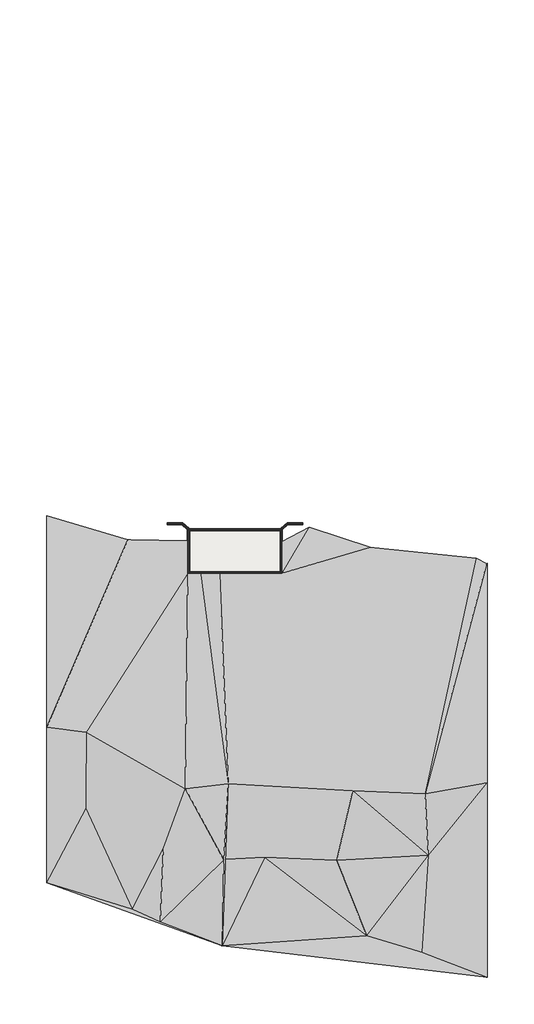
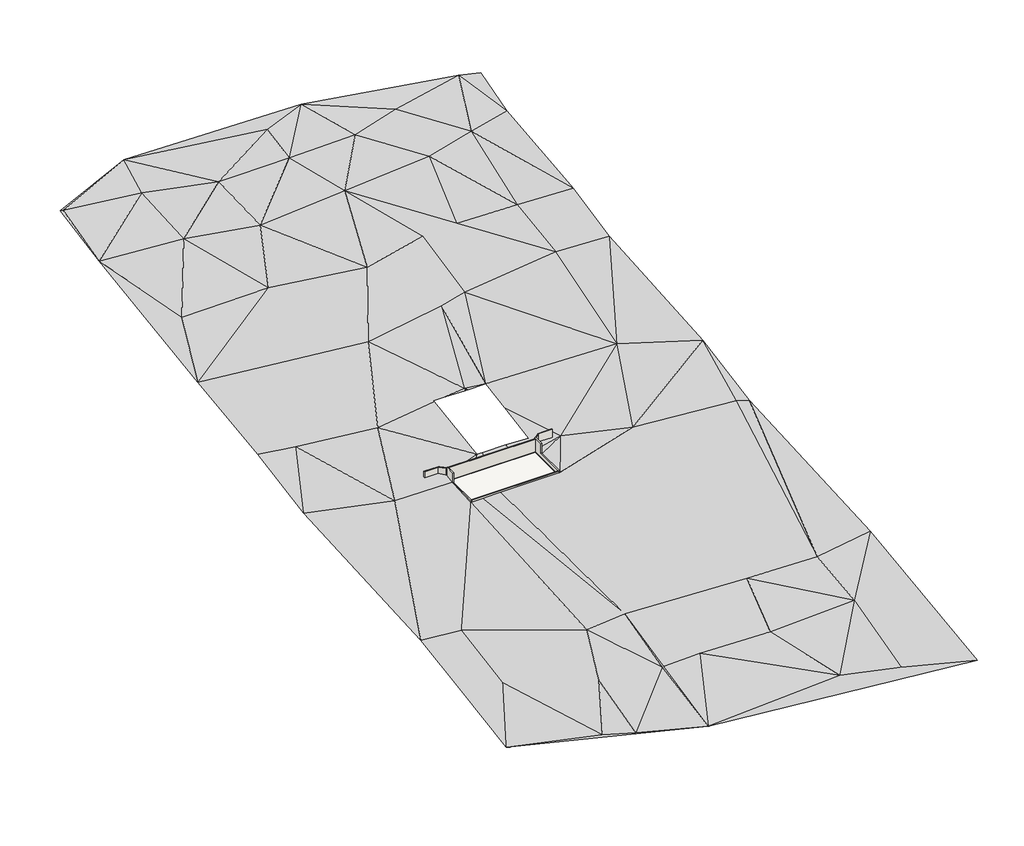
# One storey, incomplete: 17 walls, 1 proxy, 1 slab.
"""IFC4 building model written with IfcOpenShell, lengths in millimetres."""

import ifcopenshell
import ifcopenshell.guid

model = None  # the IFC model being written
_history = None  # IfcOwnerHistory: only IFC2X3 demands one
_inside = {}  # id of a spatial element -> (the spatial element, [elements in it])
_under = {}  # id of a project, library or spatial element -> (it, [spatial elements below it])
_declared = {}  # id of a project -> (the project, [libraries it declares])
_typed = {}  # id of a type object -> (the type object, [elements of that type])
_made_of = {}  # id of a material, layer set ... -> (it, [elements and type objects made of it])


def new_model(schema):
    """Start an empty IFC model of exactly this schema.

    Asked for "IFC4X3", IfcOpenShell would pick the latest addendum, in which some entities
    have other attributes; the version numbers below select the first issue.
    IFC2X3 requires an IfcOwnerHistory on every rooted entity: one is made here for all.
    """
    global model, _history
    if schema == "IFC4X3":
        model = ifcopenshell.file(schema_version=(4, 3, 0, 0))
    else:
        model = ifcopenshell.file(schema=schema)
    _inside.clear()
    _under.clear()
    _declared.clear()
    _typed.clear()
    _made_of.clear()
    _history = None
    if model.schema == "IFC2X3":
        org = make("IfcOrganization", Name="unknown")
        user = make(
            "IfcPersonAndOrganization",
            ThePerson=make("IfcPerson", FamilyName="unknown"),
            TheOrganization=org,
        )
        app = make(
            "IfcApplication",
            ApplicationDeveloper=org,
            Version="unknown",
            ApplicationFullName="unknown",
            ApplicationIdentifier="unknown",
        )
        _history = make(
            "IfcOwnerHistory",
            OwningUser=user,
            OwningApplication=app,
            ChangeAction="ADDED",
            CreationDate=0,
        )
    return model


def make(cls, **values):
    """One entity of the class cls with the attributes given. An attribute that is None is left unset."""
    return model.create_entity(
        cls, **{name: value for name, value in values.items() if value is not None}
    )


def rooted(cls, **values):
    """An entity with a GlobalId (a new one), such as an element, a storey or a relation."""
    return make(cls, GlobalId=ifcopenshell.guid.new(), OwnerHistory=_history, **values)


def si_unit(unit_type, name, prefix=None):
    """IfcSIUnit, for example si_unit("LENGTHUNIT", "METRE", prefix="MILLI")."""
    return make("IfcSIUnit", UnitType=unit_type, Prefix=prefix, Name=name)


def assignment(units):
    """IfcUnitAssignment: the units of a project."""
    return None if units is None else make("IfcUnitAssignment", Units=units)


def point(xyz):
    """IfcCartesianPoint."""
    return None if xyz is None else make("IfcCartesianPoint", Coordinates=xyz)


def direction(xyz):
    """IfcDirection."""
    return None if xyz is None else make("IfcDirection", DirectionRatios=xyz)


def frame(location, z_axis=None, x_axis=None):
    """IfcAxis2Placement3D, a coordinate frame: its origin and axes. An axis left out is left unset."""
    return make(
        "IfcAxis2Placement3D",
        Location=point(location),
        Axis=direction(z_axis),
        RefDirection=direction(x_axis),
    )


def origin():
    """The frame at (0, 0, 0) with its axes left unset."""
    return frame((0.0, 0.0, 0.0))


def place(relative_to, where):
    """IfcLocalPlacement: puts the frame where relative to a parent placement (None: the world)."""
    return make(
        "IfcLocalPlacement", PlacementRelTo=relative_to, RelativePlacement=where
    )


def context(
    kind, dimensions, precision=None, world=None, true_north=None, identifier=None
):
    """IfcGeometricRepresentationContext, for example the 3D "Model" context."""
    return make(
        "IfcGeometricRepresentationContext",
        ContextIdentifier=identifier,
        ContextType=kind,
        CoordinateSpaceDimension=dimensions,
        Precision=precision,
        WorldCoordinateSystem=world,
        TrueNorth=true_north,
    )


def project(units=None, contexts=None):
    """IfcProject with its units and contexts."""
    return rooted(
        "IfcProject",
        Name="project",
        RepresentationContexts=contexts,
        UnitsInContext=assignment(units),
    )


def spatial(cls, under=None, at=None, **own):
    """A site, building, storey or space (cls), placed at a placement, below another one or the project."""
    s = rooted(cls, ObjectPlacement=at, **own)
    if under is not None:
        _under.setdefault(under.id(), (under, []))[1].append(s)
    return s


def polyline(points):
    """IfcPolyline through the points."""
    return make("IfcPolyline", Points=[point(p) for p in points])


def point_list(points):
    """IfcCartesianPointList2D or 3D."""
    cls = (
        "IfcCartesianPointList2D" if len(points[0]) == 2 else "IfcCartesianPointList3D"
    )
    return make(cls, CoordList=points)


def outline(outer, holes=None, kind="AREA"):
    """IfcArbitraryClosedProfileDef: a profile drawn as a closed curve; with holes, ...WithVoids."""
    if holes is None:
        return make("IfcArbitraryClosedProfileDef", ProfileType=kind, OuterCurve=outer)
    return make(
        "IfcArbitraryProfileDefWithVoids",
        ProfileType=kind,
        OuterCurve=outer,
        InnerCurves=holes,
    )


def extrude(swept, where, along, depth):
    """IfcExtrudedAreaSolid: the profile swept, set in the frame where, extruded along a direction by depth."""
    return make(
        "IfcExtrudedAreaSolid",
        SweptArea=swept,
        Position=where,
        ExtrudedDirection=direction(along),
        Depth=depth,
    )


def faces_of(points, faces, orient=None, outer=None):
    """IfcFace entities. A face is a list of loops; a loop is a list of indices into points, from 0.

    orient and outer hold one flag for each loop. By default every Orientation is true, the
    first loop of a face is its IfcFaceOuterBound and the others are IfcFaceBound.
    """
    made = []
    for i, loops in enumerate(faces):
        bounds = []
        for j, loop in enumerate(loops):
            is_outer = j == 0 if outer is None else outer[i][j]
            bounds.append(
                make(
                    "IfcFaceOuterBound" if is_outer else "IfcFaceBound",
                    Bound=make("IfcPolyLoop", Polygon=[points[k] for k in loop]),
                    Orientation=True if orient is None else orient[i][j],
                )
            )
        made.append(make("IfcFace", Bounds=bounds))
    return made


def faceted_brep(points, faces, orient=None, outer=None, voids=None):
    """IfcFacetedBrep: a solid bounded by flat faces; with voids (closed shells), ...WithVoids."""
    shared = [point(p) for p in points]
    hull = make("IfcClosedShell", CfsFaces=faces_of(shared, faces, orient, outer))
    if voids is None:
        return make("IfcFacetedBrep", Outer=hull)
    return make(
        "IfcFacetedBrepWithVoids",
        Outer=hull,
        Voids=[
            make(cls, CfsFaces=faces_of(shared, fs, o, b)) for cls, fs, o, b in voids
        ],
    )


def triangles(points, corners, closed=None, point_numbers=None):
    """IfcTriangulatedFaceSet: each triangle names its three corners, points numbered from 1."""
    return make(
        "IfcTriangulatedFaceSet",
        Coordinates=point_list(points),
        Closed=closed,
        CoordIndex=corners,
        PnIndex=point_numbers,
    )


def shape(context_of_items, identifier, shape_type, items):
    """IfcShapeRepresentation: the items that make up one representation, for example the "Body"."""
    return make(
        "IfcShapeRepresentation",
        ContextOfItems=context_of_items,
        RepresentationIdentifier=identifier,
        RepresentationType=shape_type,
        Items=items,
    )


def made_of(thing, what):
    """Note that an element or type object is made of a material, layer set ...; save() writes the relation."""
    if what is not None:
        _made_of.setdefault(what.id(), (what, []))[1].append(thing)
    return thing


def element(
    cls,
    number,
    at=None,
    inside=None,
    cuts=None,
    type_object=None,
    material=None,
    context=None,
    identifier="Body",
    shape_type=None,
    held_by="IfcProductDefinitionShape",
    body=None,
    shapes=None,
    **own,
):
    """One element of the class cls, such as IfcWall. Its Tag is "e" and its number.

    at: its placement. inside: the storey or other place that contains it. cuts: it is an
    opening in that element (IfcRelVoidsElement). A single representation is given by context,
    identifier, shape_type and body (its items); several are given by shapes. held_by: the class
    of the entity that holds the representations. save() writes the other relations.
    """
    e = rooted(cls, Tag="e%d" % number, ObjectPlacement=at, **own)
    if body is not None:
        shapes = [shape(context, identifier, shape_type, body)]
    if shapes is not None:
        e.Representation = make(held_by, Representations=shapes)
    if inside is not None:
        _inside.setdefault(inside.id(), (inside, []))[1].append(e)
    if cuts is not None:
        rooted(
            "IfcRelVoidsElement", RelatingBuildingElement=cuts, RelatedOpeningElement=e
        )
    if type_object is not None:
        _typed.setdefault(type_object.id(), (type_object, []))[1].append(e)
    return made_of(e, material)


def aggregate(whole, parts):
    """IfcRelAggregates: a whole, such as a stair, and the parts it consists of."""
    return rooted("IfcRelAggregates", RelatingObject=whole, RelatedObjects=parts)


def save(model, path):
    """Write the relations noted so far, then the file.

    IfcRelAggregates (storeys below a building ...), IfcRelContainedInSpatialStructure (elements
    in a storey), IfcRelDefinesByType, IfcRelAssociatesMaterial and IfcRelDeclares: one each for
    every whole, place, type object, material and project.
    """
    for whole, parts in _under.values():
        aggregate(whole, parts)
    for where, things in _inside.values():
        rooted(
            "IfcRelContainedInSpatialStructure",
            RelatedElements=things,
            RelatingStructure=where,
        )
    for kind, things in _typed.values():
        rooted("IfcRelDefinesByType", RelatedObjects=things, RelatingType=kind)
    for what, things in _made_of.values():
        rooted("IfcRelAssociatesMaterial", RelatedObjects=things, RelatingMaterial=what)
    for by, libraries in _declared.values():
        rooted("IfcRelDeclares", RelatingContext=by, RelatedDefinitions=libraries)
    model.write(path)


model = new_model("IFC4")

# Units and contexts
model_context = context("Model", 3, world=origin())
ifc_project = project(units=[si_unit("LENGTHUNIT", "METRE", prefix="MILLI")], contexts=[model_context])

# Site, building, storey
site = spatial("IfcSite", under=ifc_project)
building = spatial("IfcBuilding", under=site)
storey = spatial("IfcBuildingStorey", under=building, Name="T. O. Footing", Elevation=38404.8)

# Proxy
placement = place(None, origin())
element("IfcBuildingElementProxy", 1, Name="Building Element Proxy", at=placement, inside=storey, context=model_context, shape_type="Tessellation", body=[
    triangles([(-65566.3560425, 54771.6940063, 47548.8), (-65566.3560425, 23905.6129211, 43891.2), (-65566.3560425, 563.8212536, 39624.0), (-65566.3560425, -59376.9942993, 36271.2), (-65566.3560425, -80012.2417236, 32918.4), (-65566.3560425, -103024.7161377, 29260.8), (-16088.8167938, -120709.7389893, 29260.8), (58298.9810303, -129683.2563721, 29260.8), (58298.9810303, -100912.8171387, 32918.4), (58298.9810303, -74931.7843872, 36271.2), (58298.9810303, -12908.5062653, 39624.0), (58298.9810303, 10950.1955658, 43891.2), (58298.9810303, 58625.2866943, 47548.8), (58298.9810303, 77099.4381226, 51206.4), (58298.9810303, 111072.8853516, 54864.0), (58298.9810303, 124538.1192627, 58521.6), (53017.0522705, 126513.4126465, 58521.6), (8975.5277252, 130983.2886475, 62179.2), (-42778.1888672, 132098.7461426, 62179.2), (-65566.3560425, 125110.0843506, 58521.6), (-65566.3560425, 105131.4526611, 54864.0), (-65566.3560425, 80665.4483643, 51206.4), (617.5082382, 22031.2482605, 43782.7229004), (617.5082382, 12342.6466187, 42109.7831543), (617.5082382, -117.5519817, 40273.6952271), (-6239.8069199, -117.5519817, 40531.5585571), (-13150.4496368, -117.5519817, 40573.3420532), (-14825.691568, -117.5519817, 40611.9303955), (-14825.691568, 21496.0925537, 43891.2), (-14825.691568, 22031.2482605, 43961.7770874), (-11300.6939392, 22031.2482605, 43891.2), (-5429.5087051, 22031.2482605, 43755.9617432), (-5147.8282242, 22031.2482605, 43754.2595215), (-4595.0747543, 22031.2482605, 43733.4747437), (617.5082382, -3622.7521271, 39757.1825684), (617.5082382, -4526.5658546, 39624.0), (617.5082382, -6797.2944031, 39624.0), (617.5082382, -16017.9525146, 39176.7203247), (-2851.6843666, -16017.9525146, 39166.3302612), (-7655.9623398, -16017.9525146, 39153.3264038), (-15316.5627686, -16017.9525146, 39168.8696411), (-16922.1240692, -16017.9525146, 39178.1946533), (-22153.2826721, -16017.9525146, 39046.3840942), (-25798.4927307, -16017.9525146, 39042.9098877), (-25798.4927307, -6563.9702728, 39624.0), (-25798.4927307, -3622.7521271, 40122.8811768), (-17616.3526245, -3622.7521271, 40144.3914917), (-14372.341333, -3622.7521271, 40069.6704712), (-6412.6202087, -3622.7521271, 40021.5478271), (-64839.9352661, 124838.4079102, 58521.6), (-57117.6670898, 77534.0581055, 51206.4), (-55581.5050415, 21844.4038513, 43891.2), (-54503.2824829, -82086.8313721, 32918.4), (-54342.5946167, -60669.7386475, 36271.2), (-43589.8276978, 121566.5611084, 58521.6), (-42615.7801758, -6303.3344376, 39624.0), (-41840.7019043, 102995.7132568, 54864.0), (-41419.002063, -110455.8067383, 29260.8), (-33578.3876221, -114053.0383301, 29260.8), (-33188.6648987, 18708.2766724, 43891.2), (-32698.5506287, -93551.2757813, 32918.4), (-31422.1680725, 77804.0602295, 51206.4), (-26498.5802307, -76619.9697144, 36271.2), (-23922.9513977, 116020.1368652, 58521.6), (-21919.3736938, 98427.0525879, 54864.0), (-18777.1213074, 48630.7618652, 47548.8), (-15723.2751526, -96645.5148193, 32918.4), (-15214.353891, -96499.6911621, 32918.4), (-14444.5799469, -75188.0199097, 36271.2), (-5101.4275681, 22972.4024414, 43891.2), (-4898.8998138, 73072.0188354, 51206.4), (-4245.1559967, -95922.5542969, 32918.4), (-4120.3819267, 125656.488208, 62179.2), (-3081.402903, 116177.27146, 58521.6), (5530.8839127, 53157.6994995, 47548.8), (8597.6874161, -2490.0724274, 39624.0), (13741.8135406, 55510.3093872, 47548.8), (14294.2170319, 77841.5184082, 51206.4), (16111.8177155, -96765.0703125, 32918.4), (16778.9955963, 116699.7791016, 58521.6), (20526.1866394, -77143.9051758, 36271.2), (24450.7540649, -117898.989624, 29260.8), (24757.4772034, 78625.340332, 51206.4), (26513.2118958, -8395.9148483, 39624.0), (30977.6905518, 103466.15896, 54864.0), (31363.5669983, 121416.2819092, 58521.6), (38557.1930237, 20583.5877869, 43891.2), (39910.326709, -122583.6339111, 29260.8), (40883.1603516, -77986.4165405, 36271.2), (41787.3144653, -95345.6499756, 32918.4), (42279.0797974, 77952.17677, 51206.4), (42879.2524658, 59430.5491699, 47548.8), (45842.480896, 107756.8738037, 54864.0), (55328.1716675, -11400.2471649, 39624.0), (4529.1581383, 100946.601123, 54864.0)], [[6, 53, 5], [53, 6, 58], [58, 59, 61], [59, 58, 6], [63, 61, 67], [58, 61, 53], [6, 7, 59], [53, 61, 63], [5, 54, 4], [5, 53, 54], [4, 54, 56], [54, 44, 56], [44, 54, 63], [44, 63, 69], [56, 44, 45], [53, 63, 54], [4, 56, 3], [61, 59, 67], [42, 43, 69], [69, 63, 67], [67, 68, 69], [68, 67, 7], [39, 40, 69], [69, 43, 44], [72, 69, 68], [42, 69, 41], [28, 46, 47], [45, 46, 56], [40, 41, 69], [28, 47, 48], [67, 59, 7], [56, 46, 60], [51, 22, 1], [52, 1, 2], [1, 62, 51], [3, 56, 52], [57, 51, 62], [52, 2, 3], [22, 51, 21], [20, 21, 50], [50, 21, 55], [20, 50, 19], [19, 55, 64], [57, 55, 21], [64, 55, 57], [55, 19, 50], [21, 51, 57], [66, 1, 52], [60, 28, 29], [52, 56, 60], [60, 29, 30], [27, 49, 26], [27, 28, 48], [26, 49, 35], [46, 28, 60], [65, 64, 57], [71, 65, 62], [31, 70, 66], [65, 57, 62], [66, 30, 31], [62, 1, 66], [71, 62, 66], [60, 30, 66], [64, 65, 74], [66, 52, 60], [49, 27, 48], [19, 64, 73], [72, 68, 7], [69, 81, 38], [69, 38, 39], [81, 72, 79], [81, 79, 90], [37, 38, 76], [72, 82, 79], [84, 76, 38], [35, 25, 26], [25, 35, 76], [76, 24, 25], [76, 36, 37], [76, 35, 36], [87, 24, 76], [38, 81, 84], [81, 90, 89], [82, 7, 88], [90, 82, 88], [89, 84, 81], [88, 9, 90], [9, 88, 8], [89, 90, 10], [7, 8, 88], [10, 90, 9], [87, 84, 12], [84, 89, 94], [12, 84, 94], [84, 87, 76], [11, 12, 94], [11, 94, 89], [10, 11, 89], [87, 12, 13], [79, 82, 90], [72, 7, 82], [23, 24, 87], [32, 33, 70], [33, 34, 70], [75, 66, 70], [23, 77, 75], [23, 87, 77], [75, 77, 71], [23, 75, 70], [34, 23, 70], [75, 71, 66], [74, 73, 64], [65, 95, 74], [73, 74, 18], [65, 71, 95], [80, 74, 95], [78, 95, 71], [83, 95, 78], [74, 80, 18], [71, 77, 78], [73, 18, 19], [77, 83, 78], [70, 31, 32], [83, 91, 85], [91, 83, 92], [93, 85, 91], [85, 80, 95], [92, 13, 14], [77, 87, 92], [92, 14, 91], [83, 77, 92], [93, 91, 14], [85, 86, 80], [86, 85, 93], [86, 93, 17], [80, 86, 18], [17, 15, 16], [15, 17, 93], [93, 14, 15], [86, 17, 18], [85, 95, 83], [87, 13, 92], [69, 72, 81]], closed=False),
])

# Slab
element("IfcSlab", 2, ObjectType="Pad 1", at=placement, inside=storey, context=model_context, shape_type="SweptSolid", body=[
    extrude(outline(polyline([(617.5082664, -3622.7519844), (617.5082664, -16017.9519844), (-25798.4917336, -16017.9519844), (-25798.4917336, -3622.7519844), (617.5082664, -3622.7519844)])), frame((0.0, 0.0, 38379.4), z_axis=(0.0, 0.0, 1.0), x_axis=(1.0, 0.0, 0.0)), (0.0, 0.0, 1.0), 25.4),
])

# Walls
element("IfcWall", 3, ObjectType="Footing", at=placement, inside=storey, context=model_context, shape_type="Brep", body=[
    faceted_brep([(-25950.8917336, -4079.9519844, 37947.6), (-25341.2917336, -4079.9519844, 37947.6), (160.3082664, -4079.9519844, 37947.6), (160.3082664, -4079.9519844, 38404.8), (-25341.2917336, -4079.9519844, 38404.8), (-25950.8917336, -4079.9519844, 38404.8), (-25950.8917336, -3470.3519844, 37947.6), (-25950.8917336, -3470.3519844, 38404.8), (-25322.7221026, -3470.3519844, 38404.8), (141.7386355, -3470.3519844, 38404.8), (160.3082664, -3470.3519844, 38404.8), (160.3082664, -3470.3519844, 37947.6), (141.7386355, -3470.3519844, 37947.6), (-25322.7221026, -3470.3519844, 37947.6), (-25950.8917336, -3731.9749246, 37947.6), (-25950.8917336, -3731.9749246, 38404.8)], [[[0, 1, 2, 3, 4, 5]], [[6, 7, 8, 9, 10, 11, 12, 13]], [[2, 1, 0, 14, 6, 13, 12, 11]], [[5, 4, 3, 10, 9, 8, 7, 15]], [[0, 5, 15, 7, 6, 14]], [[3, 2, 11, 10]]]),
])
element("IfcWall", 4, ObjectType="Footing", at=placement, inside=storey, context=model_context, shape_type="Brep", body=[
    faceted_brep([(-25341.2917336, -16170.3519844, 37947.6), (-25341.2917336, -15560.7519844, 37947.6), (-25341.2917336, -4079.9519844, 37947.6), (-25341.2917336, -4079.9519844, 38404.8), (-25341.2917336, -15560.7519844, 38404.8), (-25341.2917336, -16170.3519844, 38404.8), (-25950.8917336, -16170.3519844, 37947.6), (-25950.8917336, -16170.3519844, 38404.8), (-25950.8917336, -4079.9519844, 38404.8), (-25950.8917336, -4079.9519844, 37947.6)], [[[0, 1, 2, 3, 4, 5]], [[6, 7, 8, 9]], [[2, 1, 0, 6, 9]], [[5, 4, 3, 8, 7]], [[0, 5, 7, 6]], [[3, 2, 9, 8]]]),
])
element("IfcWall", 5, ObjectType="Footing", at=placement, inside=storey, context=model_context, shape_type="SweptSolid", body=[
    extrude(outline(polyline([(-25341.2917336, -15560.7519844), (160.3082664, -15560.7519844), (160.3082664, -16170.3519844), (-25341.2917336, -16170.3519844), (-25341.2917336, -15560.7519844)])), frame((0.0, 0.0, 37947.6), z_axis=(0.0, 0.0, 1.0), x_axis=(1.0, 0.0, 0.0)), (0.0, 0.0, 1.0), 457.2),
])
element("IfcWall", 6, ObjectType="Footing", at=placement, inside=storey, context=model_context, shape_type="Brep", body=[
    faceted_brep([(160.3082664, -3470.3519844, 37947.6), (160.3082664, -4079.9519844, 37947.6), (160.3082664, -15560.7519844, 37947.6), (160.3082664, -16170.3519844, 37947.6), (160.3082664, -16170.3519844, 38404.8), (160.3082664, -15560.7519844, 38404.8), (160.3082664, -4079.9519844, 38404.8), (160.3082664, -3470.3519844, 38404.8), (769.9082664, -3470.3519844, 37947.6), (769.9082664, -3470.3519844, 38404.8), (769.9082664, -3731.9749246, 38404.8), (769.9082664, -16170.3519844, 38404.8), (769.9082664, -16170.3519844, 37947.6), (769.9082664, -3731.9749246, 37947.6)], [[[0, 1, 2, 3, 4, 5, 6, 7]], [[8, 9, 10, 11, 12, 13]], [[3, 2, 1, 0, 8, 13, 12]], [[7, 6, 5, 4, 11, 10, 9]], [[0, 7, 9, 8]], [[4, 3, 12, 11]]]),
])
element("IfcWall", 7, ObjectType="Footing", at=placement, inside=storey, context=model_context, shape_type="Brep", body=[
    faceted_brep([(-31631.9377178, -2403.5519844, 37947.6), (-27478.7174718, -2403.5519844, 37947.6), (-26549.6540143, -2403.5519844, 37947.6), (-26549.6540143, -2403.5519844, 38404.8), (-27478.7174718, -2403.5519844, 38404.8), (-31631.9377178, -2403.5519844, 38404.8), (-31631.9377178, -1793.9519844, 37947.6), (-31631.9377178, -1793.9519844, 38404.8), (-27250.7579638, -1793.9519844, 38404.8), (-27250.7579638, -1793.9519844, 37947.6)], [[[0, 1, 2, 3, 4, 5]], [[6, 7, 8, 9]], [[2, 1, 0, 6, 9]], [[5, 4, 3, 8, 7]], [[0, 5, 7, 6]], [[3, 2, 9, 8]]]),
])
element("IfcWall", 8, ObjectType="Footing", at=placement, inside=storey, context=model_context, shape_type="SweptSolid", body=[
    extrude(outline(polyline([(-25950.8917336, -3731.9749246), (-27478.7174718, -2403.5519844), (-26549.6540143, -2403.5519844), (-25322.7221026, -3470.3519844), (-25950.8917336, -3470.3519844), (-25950.8917336, -3731.9749246)])), frame((0.0, 0.0, 37947.6), z_axis=(0.0, 0.0, 1.0), x_axis=(1.0, 0.0, 0.0)), (0.0, 0.0, 1.0), 457.2),
])
element("IfcWall", 9, ObjectType="Footing", at=placement, inside=storey, context=model_context, shape_type="Brep", body=[
    faceted_brep([(6450.9542506, -1793.9519844, 37947.6), (2069.7744966, -1793.9519844, 37947.6), (2069.7744966, -1793.9519844, 38404.8), (6450.9542506, -1793.9519844, 38404.8), (6450.9542506, -2403.5519844, 37947.6), (6450.9542506, -2403.5519844, 38404.8), (2297.7340046, -2403.5519844, 38404.8), (1368.6705471, -2403.5519844, 38404.8), (1368.6705471, -2403.5519844, 37947.6), (2297.7340046, -2403.5519844, 37947.6)], [[[0, 1, 2, 3]], [[4, 5, 6, 7, 8, 9]], [[1, 0, 4, 9, 8]], [[3, 2, 7, 6, 5]], [[0, 3, 5, 4]], [[2, 1, 8, 7]]]),
])
element("IfcWall", 10, ObjectType="Footing", at=placement, inside=storey, context=model_context, shape_type="Brep", body=[
    faceted_brep([(1368.6705471, -2403.5519844, 37947.6), (141.7386355, -3470.3519844, 37947.6), (141.7386355, -3470.3519844, 38404.8), (1368.6705471, -2403.5519844, 38404.8), (2297.7340046, -2403.5519844, 37947.6), (2297.7340046, -2403.5519844, 38404.8), (769.9082664, -3731.9749246, 38404.8), (769.9082664, -3731.9749246, 37947.6), (769.9082664, -3470.3519844, 37947.6), (160.3082664, -3470.3519844, 37947.6), (160.3082664, -3470.3519844, 38404.8), (769.9082664, -3470.3519844, 38404.8)], [[[0, 1, 2, 3]], [[4, 5, 6, 7]], [[1, 0, 4, 7, 8, 9]], [[3, 2, 10, 11, 6, 5]], [[2, 1, 9, 8, 11, 10]], [[8, 7, 6, 11]], [[0, 3, 5, 4]]]),
])
element("IfcWall", 11, ObjectType="Foundation - 12\" Concrete", at=placement, inside=storey, context=model_context, shape_type="Brep", body=[
    faceted_brep([(-25798.4917336, -3927.5519844, 38404.8), (-25493.6917336, -3927.5519844, 38404.8), (312.7082664, -3927.5519844, 38404.8), (312.7082664, -3927.5519844, 42348.15), (-25798.4917336, -3927.5519844, 42348.15), (-25798.4917336, -3622.7519844, 38404.8), (-25798.4917336, -3622.7519844, 42348.15), (312.7082664, -3622.7519844, 42348.15), (312.7082664, -3622.7519844, 38404.8)], [[[0, 1, 2, 3, 4]], [[5, 6, 7, 8]], [[2, 1, 0, 5, 8]], [[0, 4, 6, 5]], [[3, 2, 8, 7]], [[4, 3, 7, 6]]]),
])
element("IfcWall", 12, ObjectType="Foundation - 12\" Concrete", at=placement, inside=storey, context=model_context, shape_type="Brep", body=[
    faceted_brep([(-25493.6917336, -16017.9519844, 38404.8), (-25493.6917336, -15713.1519844, 38404.8), (-25493.6917336, -6877.1269844, 38404.8), (-25493.6917336, -6877.1269844, 39624.0), (-25493.6917336, -15713.1519844, 39624.0), (-25493.6917336, -16017.9519844, 39624.0), (-25798.4917336, -16017.9519844, 38404.8), (-25798.4917336, -16017.9519844, 39624.0), (-25798.4917336, -6877.1269844, 39624.0), (-25798.4917336, -6877.1269844, 38404.8)], [[[0, 1, 2, 3, 4, 5]], [[6, 7, 8, 9]], [[2, 1, 0, 6, 9]], [[3, 2, 9, 8]], [[5, 4, 3, 8, 7]], [[0, 5, 7, 6]]]),
])
element("IfcWall", 13, ObjectType="Foundation - 12\" Concrete", at=placement, inside=storey, context=model_context, shape_type="Brep", body=[
    faceted_brep([(312.7082664, -15713.1519844, 38404.8), (-25493.6917336, -15713.1519844, 38404.8), (-25493.6917336, -15713.1519844, 39519.225), (-25493.6917336, -15713.1519844, 39624.0), (312.7082664, -15713.1519844, 39624.0), (312.7082664, -15713.1519844, 39519.225), (312.7082664, -16017.9519844, 38404.8), (312.7082664, -16017.9519844, 39624.0), (-25493.6917336, -16017.9519844, 39624.0), (-25493.6917336, -16017.9519844, 38404.8)], [[[0, 1, 2, 3, 4, 5]], [[6, 7, 8, 9]], [[1, 0, 6, 9]], [[4, 3, 8, 7]], [[3, 2, 1, 9, 8]], [[0, 5, 4, 7, 6]]]),
])
element("IfcWall", 14, ObjectType="Foundation - 12\" Concrete", at=placement, inside=storey, context=model_context, shape_type="Brep", body=[
    faceted_brep([(312.7082664, -3622.7519844, 38404.8), (312.7082664, -3927.5519844, 38404.8), (312.7082664, -15713.1519844, 38404.8), (312.7082664, -16017.9519844, 38404.8), (312.7082664, -16017.9519844, 39624.0), (312.7082664, -15713.1519844, 39624.0), (312.7082664, -6746.9519844, 39624.0), (312.7082664, -6746.9519844, 42672.0), (312.7082664, -3622.7519844, 42672.0), (312.7082664, -3622.7519844, 42348.15), (617.5082664, -3622.7519844, 38404.8), (617.5082664, -3622.7519844, 42672.0), (617.5082664, -6746.9519844, 42672.0), (617.5082664, -6746.9519844, 39624.0), (617.5082664, -16017.9519844, 39624.0), (617.5082664, -16017.9519844, 38404.8)], [[[0, 1, 2, 3, 4, 5, 6, 7, 8, 9]], [[10, 11, 12, 13, 14, 15]], [[3, 2, 1, 0, 10, 15]], [[0, 9, 8, 11, 10]], [[4, 3, 15, 14]], [[6, 5, 4, 14, 13]], [[6, 13, 12, 7]], [[8, 7, 12, 11]]]),
])
element("IfcWall", 15, ObjectType="Foundation - 12\" Concrete", at=placement, inside=storey, context=model_context, shape_type="Brep", body=[
    faceted_brep([(-25493.6917336, -6877.1269844, 38404.8), (-25493.6917336, -3927.5519844, 38404.8), (-25493.6917336, -3927.5519844, 42672.0), (-25493.6917336, -6877.1269844, 42672.0), (-25493.6917336, -6877.1269844, 39624.0), (-25798.4917336, -6877.1269844, 38404.8), (-25798.4917336, -6877.1269844, 39624.0), (-25798.4917336, -6877.1269844, 42672.0), (-25798.4917336, -3927.5519844, 42672.0), (-25798.4917336, -3927.5519844, 42348.15), (-25798.4917336, -3927.5519844, 38404.8)], [[[0, 1, 2, 3, 4]], [[5, 6, 7, 8, 9, 10]], [[1, 0, 5, 10]], [[0, 4, 3, 7, 6, 5]], [[2, 1, 10, 9, 8]], [[3, 2, 8, 7]]]),
])
element("IfcWall", 16, ObjectType="Retaining - 12\" Concrete", at=placement, inside=storey, context=model_context, shape_type="Brep", body=[
    faceted_brep([(-27307.7478408, -1946.3519844, 38404.8), (-31456.7002104, -1946.3519844, 38404.8), (-31456.7002104, -1946.3519844, 42265.6), (-27307.7478408, -1946.3519844, 42265.6), (-26957.195866, -2251.1519844, 38404.8), (-26957.195866, -2251.1519844, 42265.6), (-27421.7275948, -2251.1519844, 42265.6), (-31456.7002104, -2251.1519844, 42265.6), (-31456.7002104, -2251.1519844, 38404.8), (-27421.7275948, -2251.1519844, 38404.8)], [[[0, 1, 2, 3]], [[4, 5, 6, 7, 8, 9]], [[1, 0, 4, 9, 8]], [[2, 1, 8, 7]], [[3, 2, 7, 6, 5]], [[0, 3, 5, 4]]]),
])
element("IfcWall", 17, ObjectType="Retaining - 12\" Concrete", at=placement, inside=storey, context=model_context, shape_type="Brep", body=[
    faceted_brep([(1776.2123989, -2251.1519844, 38404.8), (2240.7441276, -2251.1519844, 38404.8), (6275.7167433, -2251.1519844, 38404.8), (6275.7167433, -2251.1519844, 42265.6), (2240.7441276, -2251.1519844, 42265.6), (1776.2123989, -2251.1519844, 42265.6), (2126.7643736, -1946.3519844, 38404.8), (2126.7643736, -1946.3519844, 42265.6), (6275.7167433, -1946.3519844, 42265.6), (6275.7167433, -1946.3519844, 38404.8)], [[[0, 1, 2, 3, 4, 5]], [[6, 7, 8, 9]], [[2, 1, 0, 6, 9]], [[3, 2, 9, 8]], [[5, 4, 3, 8, 7]], [[0, 5, 7, 6]]]),
])
element("IfcWall", 18, ObjectType="Retaining - 12\" Concrete", at=placement, inside=storey, context=model_context, shape_type="SweptSolid", body=[
    extrude(outline(polyline([(-26957.195866, -2251.1519844), (-25379.7119796, -3622.7519844), (-25798.4917336, -3622.7519844), (-25798.4917336, -3662.5326815), (-27421.7275948, -2251.1519844), (-26957.195866, -2251.1519844)])), frame((0.0, 0.0, 38404.8), z_axis=(0.0, 0.0, 1.0), x_axis=(1.0, 0.0, 0.0)), (0.0, 0.0, 1.0), 3860.8),
])
element("IfcWall", 19, ObjectType="Retaining - 12\" Concrete", at=placement, inside=storey, context=model_context, shape_type="SweptSolid", body=[
    extrude(outline(polyline([(198.7285124, -3622.7519844), (1776.2123989, -2251.1519844), (2240.7441276, -2251.1519844), (617.5082664, -3662.5326815), (617.5082664, -3622.7519844), (198.7285124, -3622.7519844)])), frame((0.0, 0.0, 38404.8), z_axis=(0.0, 0.0, 1.0), x_axis=(1.0, 0.0, 0.0)), (0.0, 0.0, 1.0), 3860.8),
])

save(model, "model.ifc")
